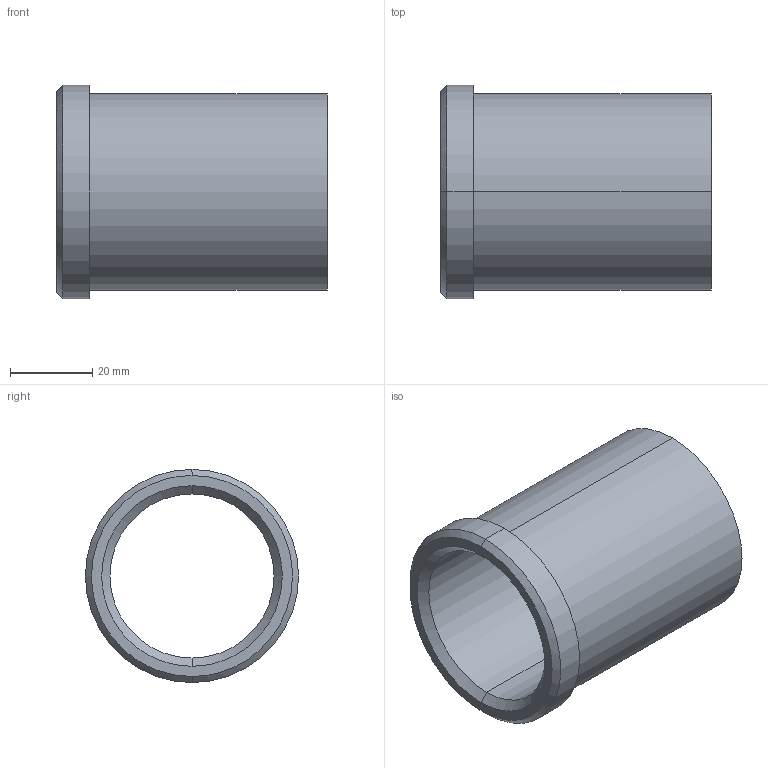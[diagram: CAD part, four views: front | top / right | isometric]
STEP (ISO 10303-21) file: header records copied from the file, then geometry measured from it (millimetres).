
FILE_DESCRIPTION(('CATIA V5 STEP Exchange'),'2;1');
FILE_NAME('C:\Users\Utente\Desktop\IO LAVORO\3D X SITO CF\X SITO\PLASTICA\353\353-40X66.stp','2021-05-13T18:25:17+00:00',('none'),('none'),'CATIA Version 5 Release 20 GA (IN-10)','CATIA V5 STEP AP203','none');
FILE_SCHEMA(('CONFIG_CONTROL_DESIGN'));
Length unit declared in the file: millimetre
Products named in the file (1): 353-40X66
Bounding box: 66 x 52 x 52 mm (x, y, z)
Volume: 38455.8 mm3; surface area: 19686.5 mm2
Topology: 1 solids, 1 shells, 15 faces, 48 edges, 36 vertices
Faces by surface type: cylinder 6, cone 4, plane 3, torus 2
Entity records: 680 total; most frequent: CARTESIAN_POINT 212, ORIENTED_EDGE 96, DIRECTION 70, EDGE_CURVE 48, AXIS2_PLACEMENT_3D 46, VERTEX_POINT 36, CIRCLE 30, EDGE_LOOP 18
